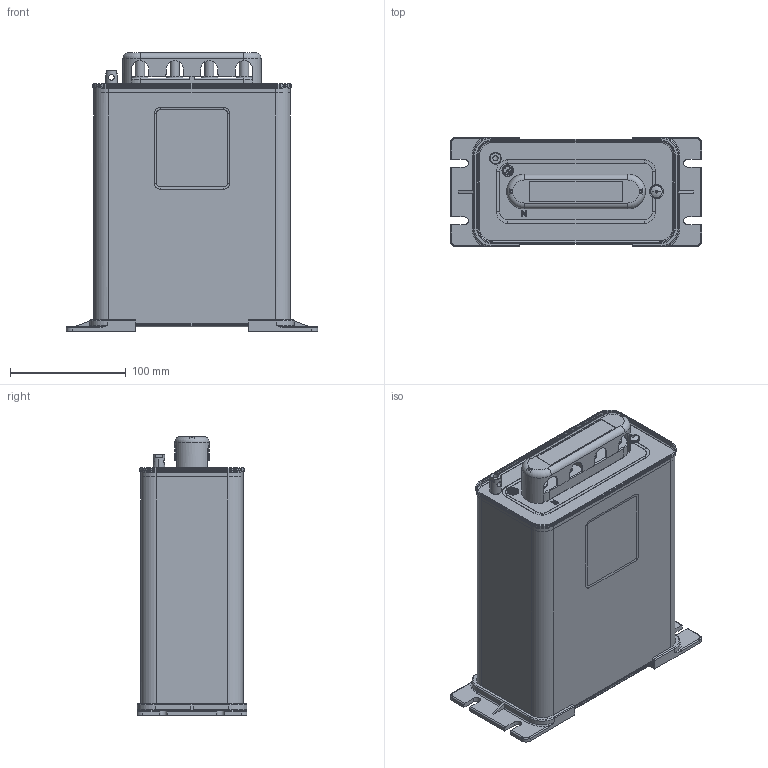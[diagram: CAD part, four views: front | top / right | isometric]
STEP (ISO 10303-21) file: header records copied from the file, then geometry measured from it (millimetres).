
FILE_DESCRIPTION((''),'2;1');
FILE_NAME('2708002300_SW0001','2025-05-06T',('hua.zhang'),(''),'PRO/ENGINEER BY PARAMETRIC TECHNOLOGY CORPORATION, 2017170','PRO/ENGINEER BY PARAMETRIC TECHNOLOGY CORPORATION, 2017170','');
FILE_SCHEMA(('CONFIG_CONTROL_DESIGN'));
Length unit declared in the file: millimetre
Products named in the file (1): 2708002300_SW0001
Bounding box: 217.56 x 95 x 241.34 mm (x, y, z)
Volume: 3109888.2 mm3; surface area: 222485.2 mm2
Topology: 1 solids, 5 shells, 1235 faces, 3183 edges, 1976 vertices
Faces by surface type: plane 554, cylinder 442, torus 139, cone 50, sphere 34, bspline 16
Entity records: 41116 total; most frequent: CARTESIAN_POINT 10359, DIRECTION 6657, ORIENTED_EDGE 6366, EDGE_CURVE 3183, AXIS2_PLACEMENT_3D 2411, VERTEX_POINT 1976, VECTOR 1835, LINE 1835
